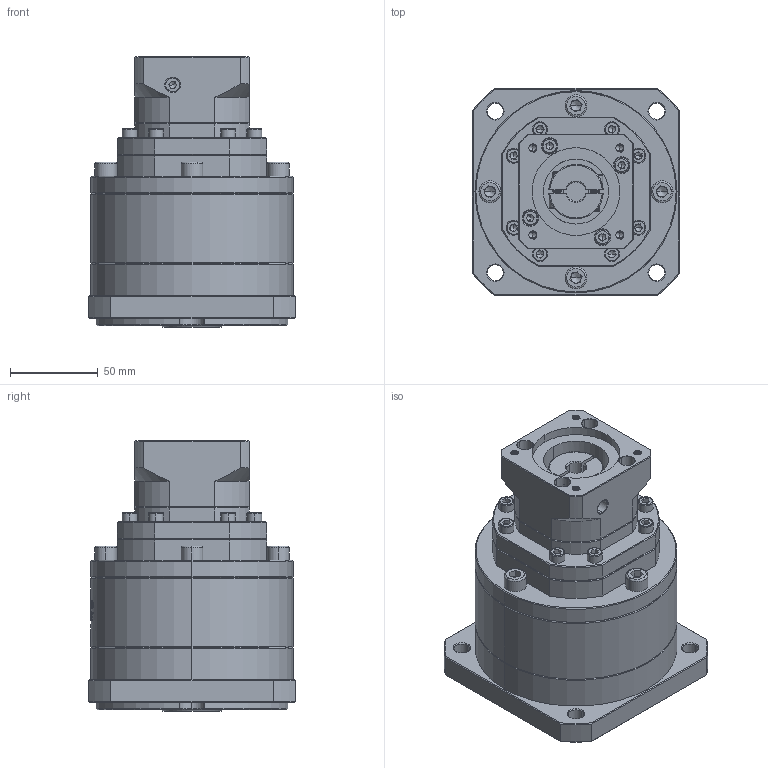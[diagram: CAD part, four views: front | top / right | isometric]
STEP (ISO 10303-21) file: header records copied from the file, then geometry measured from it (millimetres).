
FILE_DESCRIPTION (( 'STEP AP214' ), '1' );
FILE_NAME ('ZF120A-K25-L3-P2-11-50-70-M5.step', '2023-08-27T06:32:17', ( '' ), ( '' ), 'SwSTEP 2.0', 'SolidWorks 2016', '' );
FILE_SCHEMA (( 'AUTOMOTIVE_DESIGN' ));
Length unit declared in the file: millimetre
Products named in the file (1): ZF120A-K25-L3-P2-11-50-70-M5
Bounding box: 118 x 118 x 154 mm (x, y, z)
Volume: 1166126.8 mm3; surface area: 114804.8 mm2
Topology: 7 solids, 7 shells, 2302 faces, 6134 edges, 3942 vertices
Faces by surface type: plane 1172, bspline 426, cylinder 390, cone 292, torus 22
Entity records: 120222 total; most frequent: CARTESIAN_POINT 42740, ORIENTED_EDGE 12164, DIRECTION 9045, EDGE_CURVE 6082, VERTEX_POINT 3942, LINE 3281, VECTOR 3281, AXIS2_PLACEMENT_3D 2882
